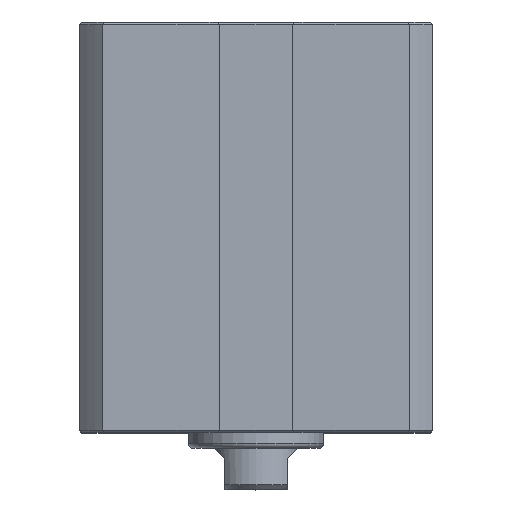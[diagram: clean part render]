
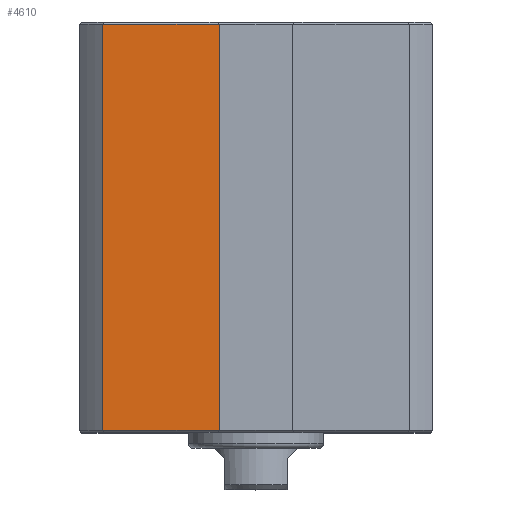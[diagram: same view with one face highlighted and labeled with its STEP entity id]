
A CAD part, top view. The second image highlights one B-rep face of the part: STEP entity #4610.
In plain terms, the highlighted planar face has unit normal (0, 0, 1).
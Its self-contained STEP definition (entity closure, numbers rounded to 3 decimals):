
#108=LINE('',#6377,#376);
#110=LINE('',#6381,#378);
#111=LINE('',#6383,#379);
#112=LINE('',#6385,#380);
#376=VECTOR('',#5485,1000.);
#378=VECTOR('',#5489,1000.);
#379=VECTOR('',#5490,1000.);
#380=VECTOR('',#5491,1000.);
#646=PLANE('',#4924);
#1015=ORIENTED_EDGE('',*,*,#1732,.F.);
#1016=ORIENTED_EDGE('',*,*,#1734,.T.);
#1017=ORIENTED_EDGE('',*,*,#1735,.T.);
#1018=ORIENTED_EDGE('',*,*,#1736,.T.);
#1732=EDGE_CURVE('',#2126,#2127,#108,.T.);
#1734=EDGE_CURVE('',#2126,#2128,#110,.T.);
#1735=EDGE_CURVE('',#2128,#2129,#111,.T.);
#1736=EDGE_CURVE('',#2129,#2127,#112,.T.);
#2126=VERTEX_POINT('',#6376);
#2127=VERTEX_POINT('',#6378);
#2128=VERTEX_POINT('',#6382);
#2129=VERTEX_POINT('',#6384);
#2552=EDGE_LOOP('',(#1015,#1016,#1017,#1018));
#2836=FACE_BOUND('',#2552,.T.);
#4610=ADVANCED_FACE('',(#2836),#646,.T.);
#4924=AXIS2_PLACEMENT_3D('',#6380,#5487,#5488);
#5485=DIRECTION('',(0.,-1.,0.));
#5487=DIRECTION('',(0.,0.,1.));
#5488=DIRECTION('',(1.,0.,0.));
#5489=DIRECTION('',(-1.,0.,0.));
#5490=DIRECTION('',(0.,-1.,0.));
#5491=DIRECTION('',(1.,0.,0.));
#6376=CARTESIAN_POINT('',(-3.55,39.3,16.997));
#6377=CARTESIAN_POINT('',(-3.55,29.5,16.997));
#6378=CARTESIAN_POINT('',(-3.55,0.2,16.997));
#6380=CARTESIAN_POINT('',(-3.55,29.5,16.997));
#6381=CARTESIAN_POINT('',(-3.55,39.3,16.997));
#6382=CARTESIAN_POINT('',(-14.741,39.3,16.997));
#6383=CARTESIAN_POINT('',(-14.741,29.5,16.997));
#6384=CARTESIAN_POINT('',(-14.741,0.2,16.997));
#6385=CARTESIAN_POINT('',(-3.55,0.2,16.997));
